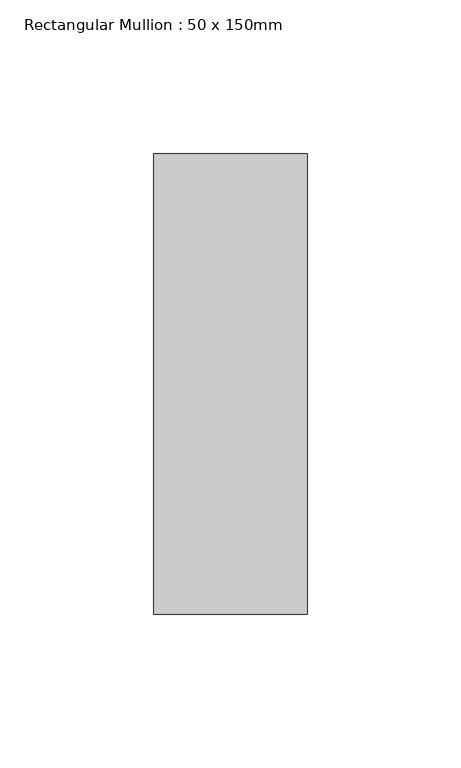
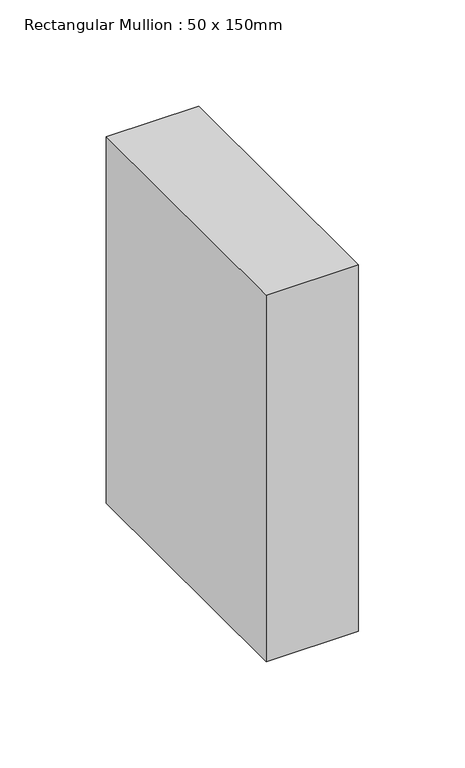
"""IFC4 building model written with IfcOpenShell, lengths in millimetres: member geometry, Rectangular Mullion : 50 x 150mm."""

from ifc_helpers import new_model, si_unit, frame, origin, place, context, project, spatial, polyline, outline, extrude, source, transform, mapped, element, save


def rectangular_mullion_50_x_150mm_0b67247b(model_context):
    return source(origin(), model_context, "Body", "SweptSolid", [
        extrude(outline(polyline([(0.0, 75.0), (0.0, -75.0), (-50.0, -75.0), (-50.0, 75.0), (0.0, 75.0)])), frame((0.0, 0.0, -210.0), z_axis=(0.0, 0.0, 1.0), x_axis=(1.0, 0.0, 0.0)), (0.0, 0.0, 1.0), 210.0),
    ])


if __name__ == "__main__":
    model = new_model("IFC4")
    model_context = context("Model", 3, world=origin())
    ifc_project = project(units=[si_unit("LENGTHUNIT", "METRE", prefix="MILLI")], contexts=[model_context])
    site = spatial("IfcSite", under=ifc_project)
    building = spatial("IfcBuilding", under=site)
    placement = place(None, origin())
    rectangular_mullion_50_x_150mm_shape = rectangular_mullion_50_x_150mm_0b67247b(model_context)
    element("IfcMember", 1, ObjectType="Rectangular Mullion : 50 x 150mm", at=placement, inside=building, context=model_context, shape_type="MappedRepresentation", body=[
        mapped(rectangular_mullion_50_x_150mm_shape, transform((0.0, 0.0, 0.0), x_axis=(1.0, 0.0, 0.0), y_axis=(0.0, 1.0, 0.0), z_axis=(0.0, 0.0, 1.0))),
    ])
    save(model, "model.ifc")
